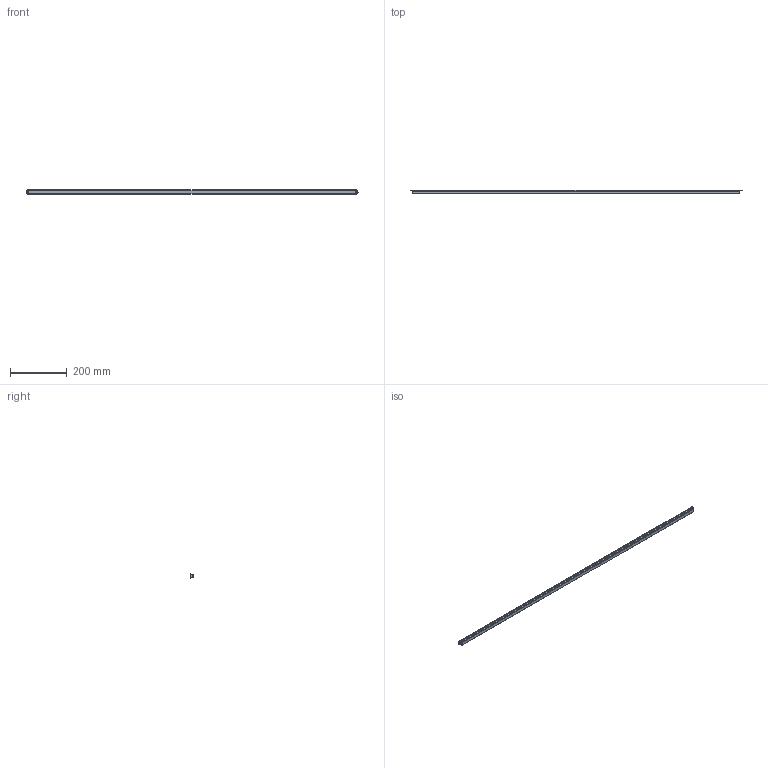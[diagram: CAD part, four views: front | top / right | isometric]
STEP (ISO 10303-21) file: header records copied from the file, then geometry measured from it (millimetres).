
FILE_DESCRIPTION(/* description */ (''),/* implementation_level */ '2;1');
FILE_NAME(/* name */ '6113031_Malindi_Aluprofil_sldprt.stp',/* time_stamp */ '2019-06-07T07:39:41+02:00',/* author */ (''),/* organization */ (''),/* preprocessor_version */ 'ST-DEVELOPER v16.7',/* originating_system */ 'SIEMENS PLM Software NX 12.0',/* authorisation */ '');
FILE_SCHEMA (('AUTOMOTIVE_DESIGN { 1 0 10303 214 3 1 1 1 }'));
Length unit declared in the file: millimetre
Products named in the file (1): p.sc0DF892D9ppwk
Bounding box: 1167 x 11.28 x 17 mm (x, y, z)
Volume: 174688.9 mm3; surface area: 92506.6 mm2
Topology: 1 solids, 1 shells, 206 faces, 570 edges, 368 vertices
Faces by surface type: plane 93, cylinder 79, bspline 12, torus 12, cone 8, sphere 2
Entity records: 7615 total; most frequent: CARTESIAN_POINT 2219, ORIENTED_EDGE 1140, DIRECTION 1130, EDGE_CURVE 570, AXIS2_PLACEMENT_3D 391, VERTEX_POINT 368, LINE 348, VECTOR 348
